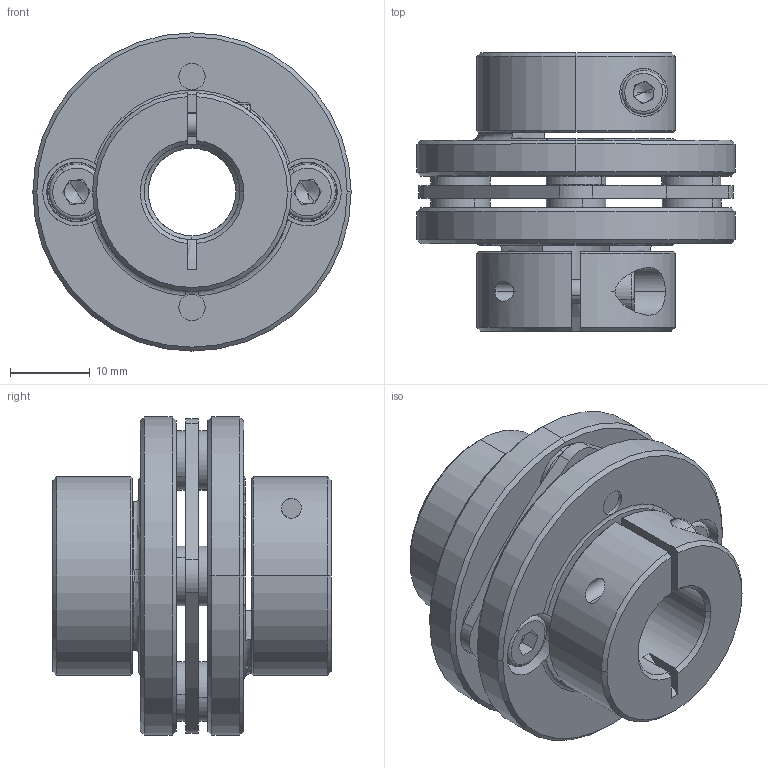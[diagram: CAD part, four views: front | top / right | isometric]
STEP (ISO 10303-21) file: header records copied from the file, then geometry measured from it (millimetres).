
FILE_DESCRIPTION (( 'STEP AP203' ), '1' );
FILE_NAME ('LE1-B-D40L35-12-12.STEP', '2021-11-01T02:11:38', ( '' ), ( '' ), 'SwSTEP 2.0', 'SolidWorks 2018', '' );
FILE_SCHEMA (( 'CONFIG_CONTROL_DESIGN' ));
Length unit declared in the file: millimetre
Products named in the file (1): LE1-B-D40L35-12-12
Bounding box: 40 x 35 x 40 mm (x, y, z)
Volume: 18884.2 mm3; surface area: 12620 mm2
Topology: 1 solids, 13 shells, 423 faces, 1021 edges, 630 vertices
Faces by surface type: cylinder 149, plane 140, cone 114, torus 18, bspline 2
Entity records: 12766 total; most frequent: CARTESIAN_POINT 2459, DIRECTION 2335, ORIENTED_EDGE 2018, EDGE_CURVE 1009, AXIS2_PLACEMENT_3D 952, VERTEX_POINT 630, CIRCLE 530, EDGE_LOOP 491
